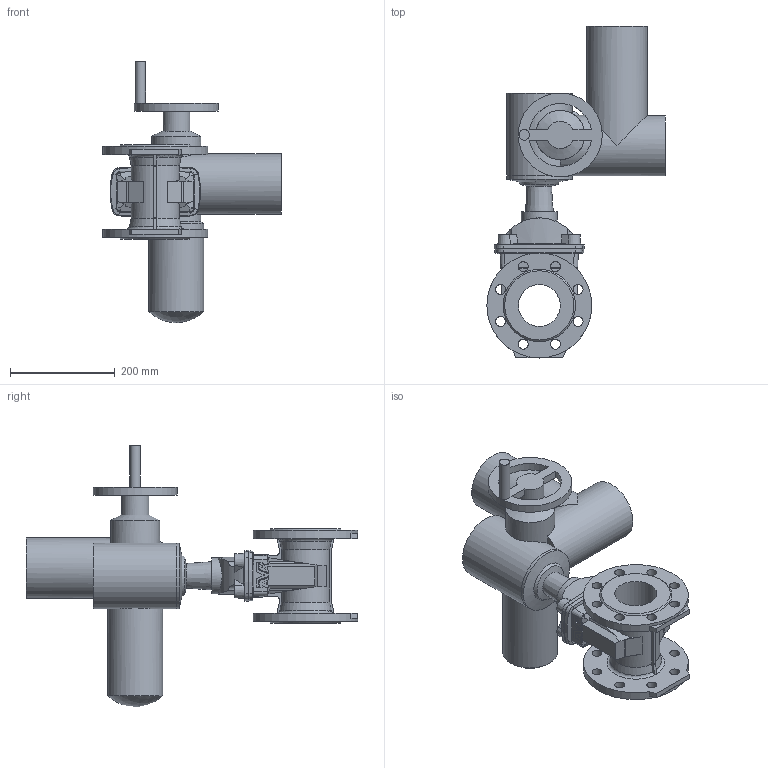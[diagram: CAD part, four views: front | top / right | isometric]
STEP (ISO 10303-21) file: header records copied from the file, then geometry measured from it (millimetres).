
FILE_DESCRIPTION (( 'STEP AP203' ), '1' );
FILE_NAME ('O_15_42_DN080_X1XXX099_SA07.6_AA0.step', '2017-03-20T12:32:36', ( 'Windows User' ), ( 'AVK' ), 'SwSTEP 2.0', 'SolidWorks 2012', '' );
FILE_SCHEMA (( 'CONFIG_CONTROL_DESIGN' ));
Length unit declared in the file: inch
Products named in the file (1): O_15_42_DN080_X1XXX099_SA07.6_AA0
Bounding box: 340 x 633 x 498.55 mm (x, y, z)
Volume: 10827333.7 mm3; surface area: 645580.7 mm2
Topology: 1 solids, 1 shells, 289 faces, 820 edges, 538 vertices
Faces by surface type: plane 138, cylinder 90, cone 58, torus 2, sphere 1
Full cylindrical faces by diameter (mm): 19 x16, 20 x1, 52.112 x1, 69 x1, 80 x1, 93.905 x1, 105 x1, 115 x2, 125 x2, 160 x1, 200 x2
Entity records: 10094 total; most frequent: CARTESIAN_POINT 2978, ORIENTED_EDGE 1496, DIRECTION 1374, EDGE_CURVE 748, VERTEX_POINT 510, AXIS2_PLACEMENT_3D 482, LINE 410, VECTOR 410
